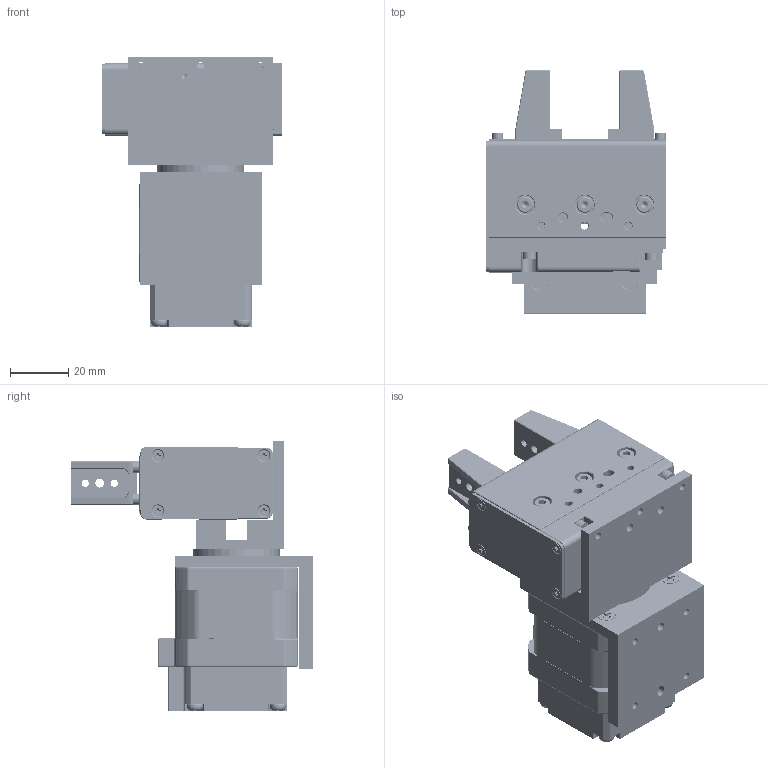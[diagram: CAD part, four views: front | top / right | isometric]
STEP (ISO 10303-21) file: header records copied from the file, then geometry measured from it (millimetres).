
FILE_DESCRIPTION (( 'STEP AP203' ), '1' );
FILE_NAME ('3KH05010-00(RGL42T-S0402-14DVD).STEP', '2023-08-10T05:42:58', ( '' ), ( '' ), 'SwSTEP 2.0', 'SolidWorks 2023', '' );
FILE_SCHEMA (( 'CONFIG_CONTROL_DESIGN' ));
Products named in the file (1): 3KH05010-00(RGL42T-S0402-14DVD)
Bounding box: 62 x 83.5 x 92.85 mm (x, y, z)
Volume: 127691.1 mm3; surface area: 117449.2 mm2
Topology: 46 solids, 77 shells, 6409 faces, 17525 edges, 11015 vertices
Faces by surface type: plane 3014, cylinder 2289, cone 543, torus 361, sphere 182, bspline 20
Entity records: 222057 total; most frequent: CARTESIAN_POINT 61004, ORIENTED_EDGE 34322, DIRECTION 33855, EDGE_CURVE 17161, AXIS2_PLACEMENT_3D 12183, VERTEX_POINT 10931, LINE 9489, VECTOR 9489
